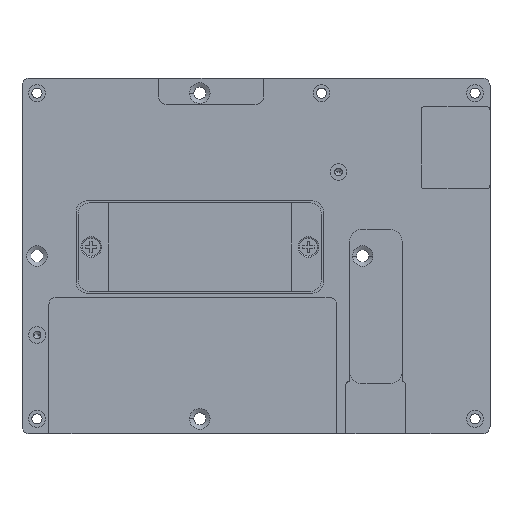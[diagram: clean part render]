
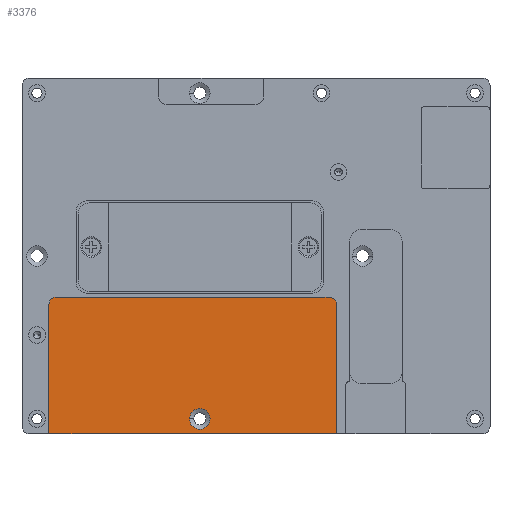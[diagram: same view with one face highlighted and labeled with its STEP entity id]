
A CAD part, front view. The second image highlights one B-rep face of the part: STEP entity #3376.
In plain terms, the highlighted planar face has unit normal (0, -1, 0).
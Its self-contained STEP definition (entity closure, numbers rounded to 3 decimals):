
#619=DIRECTION('',(1.,0.,0.));
#620=VECTOR('',#619,76.8);
#621=CARTESIAN_POINT('',(-40.3,6.,-47.5));
#622=LINE('',#621,#620);
#1053=CARTESIAN_POINT('',(34.5,6.,-13.));
#1054=DIRECTION('',(0.,-1.,0.));
#1055=DIRECTION('',(1.,0.,0.));
#1056=AXIS2_PLACEMENT_3D('',#1053,#1054,#1055);
#1058=DIRECTION('',(0.,0.,-1.));
#1059=VECTOR('',#1058,34.5);
#1060=CARTESIAN_POINT('',(36.5,6.,-13.));
#1061=LINE('',#1060,#1059);
#1062=DIRECTION('',(0.,0.,1.));
#1063=VECTOR('',#1062,34.5);
#1064=CARTESIAN_POINT('',(-40.3,6.,-47.5));
#1065=LINE('',#1064,#1063);
#1066=CARTESIAN_POINT('',(-38.3,6.,-13.));
#1067=DIRECTION('',(0.,-1.,0.));
#1068=DIRECTION('',(0.,0.,1.));
#1069=AXIS2_PLACEMENT_3D('',#1066,#1067,#1068);
#1071=DIRECTION('',(-1.,0.,0.));
#1072=VECTOR('',#1071,72.8);
#1073=CARTESIAN_POINT('',(34.5,6.,-11.));
#1074=LINE('',#1073,#1072);
#1075=CARTESIAN_POINT('',(0.,6.,-43.5));
#1076=DIRECTION('',(0.,1.,0.));
#1077=DIRECTION('',(1.,0.,0.));
#1078=AXIS2_PLACEMENT_3D('',#1075,#1076,#1077);
#1080=CARTESIAN_POINT('',(0.,6.,-43.5));
#1081=DIRECTION('',(0.,1.,0.));
#1082=DIRECTION('',(-1.,0.,0.));
#1083=AXIS2_PLACEMENT_3D('',#1080,#1081,#1082);
#1604=CARTESIAN_POINT('',(-40.3,6.,-47.5));
#1606=VERTEX_POINT('',#1604);
#1608=CARTESIAN_POINT('',(36.5,6.,-47.5));
#1610=VERTEX_POINT('',#1608);
#1611=CARTESIAN_POINT('',(36.5,6.,-13.));
#1613=VERTEX_POINT('',#1611);
#1615=CARTESIAN_POINT('',(34.5,6.,-11.));
#1617=VERTEX_POINT('',#1615);
#1619=CARTESIAN_POINT('',(-38.3,6.,-11.));
#1621=VERTEX_POINT('',#1619);
#1623=CARTESIAN_POINT('',(-40.3,6.,-13.));
#1625=VERTEX_POINT('',#1623);
#1677=CARTESIAN_POINT('',(2.75,6.,-43.5));
#1678=CARTESIAN_POINT('',(-2.75,6.,-43.5));
#1679=VERTEX_POINT('',#1677);
#1680=VERTEX_POINT('',#1678);
#3357=CARTESIAN_POINT('',(0.,6.,0.));
#3358=DIRECTION('',(0.,1.,0.));
#3359=DIRECTION('',(1.,0.,0.));
#3360=AXIS2_PLACEMENT_3D('',#3357,#3358,#3359);
#3361=PLANE('',#3360);
#3362=ORIENTED_EDGE('',*,*,#3337,.F.);
#3363=ORIENTED_EDGE('',*,*,#3352,.T.);
#3364=ORIENTED_EDGE('',*,*,#2686,.F.);
#3365=ORIENTED_EDGE('',*,*,#3295,.T.);
#3366=ORIENTED_EDGE('',*,*,#3309,.F.);
#3367=ORIENTED_EDGE('',*,*,#3323,.F.);
#3368=EDGE_LOOP('',(#3362,#3363,#3364,#3365,#3366,#3367));
#3369=FACE_OUTER_BOUND('',#3368,.F.);
#3371=ORIENTED_EDGE('',*,*,#3370,.F.);
#3373=ORIENTED_EDGE('',*,*,#3372,.F.);
#3374=EDGE_LOOP('',(#3371,#3373));
#3375=FACE_BOUND('',#3374,.F.);
#3376=ADVANCED_FACE('',(#3369,#3375),#3361,.F.);
#1057=CIRCLE('',#1056,2.);
#1070=CIRCLE('',#1069,2.);
#1079=CIRCLE('',#1078,2.75);
#1084=CIRCLE('',#1083,2.75);
#2686=EDGE_CURVE('',#1606,#1610,#622,.T.);
#3295=EDGE_CURVE('',#1606,#1625,#1065,.T.);
#3309=EDGE_CURVE('',#1621,#1625,#1070,.T.);
#3323=EDGE_CURVE('',#1617,#1621,#1074,.T.);
#3337=EDGE_CURVE('',#1613,#1617,#1057,.T.);
#3352=EDGE_CURVE('',#1613,#1610,#1061,.T.);
#3370=EDGE_CURVE('',#1679,#1680,#1079,.T.);
#3372=EDGE_CURVE('',#1680,#1679,#1084,.T.);
